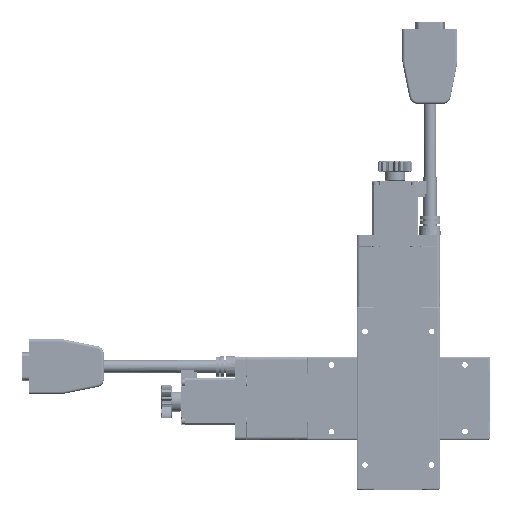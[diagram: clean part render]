
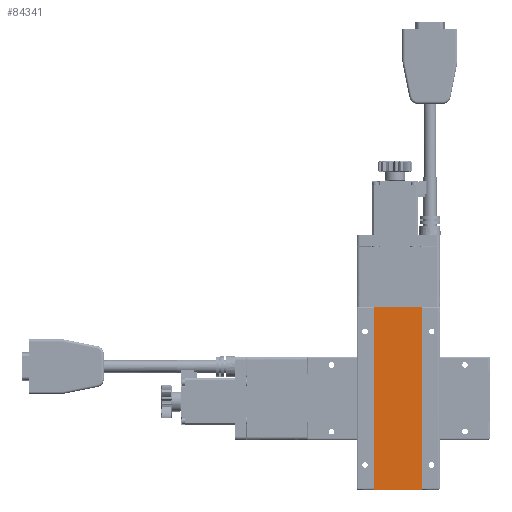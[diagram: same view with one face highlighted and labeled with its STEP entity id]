
A CAD part, front view. The second image highlights one B-rep face of the part: STEP entity #84341.
In plain terms, the highlighted planar face has unit normal (0, -1, 0).
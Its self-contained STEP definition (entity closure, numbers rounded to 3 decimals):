
#758 = EDGE_CURVE ( 'NONE', #85289, #66491, #57590, .T. ) ;
#1230 = CARTESIAN_POINT ( 'NONE',  ( -14.3, -10.95, -18.267 ) ) ;
#6103 = ORIENTED_EDGE ( 'NONE', *, *, #758, .T. ) ;
#12963 = CARTESIAN_POINT ( 'NONE',  ( -14.3, -10.95, 54.8 ) ) ;
#18650 = CARTESIAN_POINT ( 'NONE',  ( 14.3, -10.95, -54.8 ) ) ;
#19559 = EDGE_CURVE ( 'NONE', #66491, #128352, #25336, .T. ) ;
#25336 = B_SPLINE_CURVE_WITH_KNOTS ( 'NONE', 3,
 ( #94058, #64407, #1230, #42439 ),
 .UNSPECIFIED., .F., .F.,
 ( 4, 4 ),
 ( 0., 1. ),
 .UNSPECIFIED. ) ;
#25996 = FACE_OUTER_BOUND ( 'NONE', #41601, .T. ) ;
#26135 = CARTESIAN_POINT ( 'NONE',  ( 14.3, -10.95, 54.8 ) ) ;
#27163 = ORIENTED_EDGE ( 'NONE', *, *, #110834, .T. ) ;
#41601 = EDGE_LOOP ( 'NONE', ( #27163, #120176, #6103, #78436 ) ) ;
#42439 = CARTESIAN_POINT ( 'NONE',  ( -14.3, -10.95, -54.8 ) ) ;
#46348 = EDGE_CURVE ( 'NONE', #74954, #85289, #97276, .T. ) ;
#46796 = CARTESIAN_POINT ( 'NONE',  ( -4.767, -10.95, -54.8 ) ) ;
#54841 = DIRECTION ( 'NONE',  ( 1., 0., 0. ) ) ;
#57590 = B_SPLINE_CURVE_WITH_KNOTS ( 'NONE', 3,
 ( #26135, #67327, #129907, #89353 ),
 .UNSPECIFIED., .F., .F.,
 ( 4, 4 ),
 ( 0., 1. ),
 .UNSPECIFIED. ) ;
#62296 = CARTESIAN_POINT ( 'NONE',  ( -14.3, -10.95, -54.8 ) ) ;
#64407 = CARTESIAN_POINT ( 'NONE',  ( -14.3, -10.95, 18.267 ) ) ;
#66491 = VERTEX_POINT ( 'NONE', #120745 ) ;
#66745 = CARTESIAN_POINT ( 'NONE',  ( 14.3, -10.95, -54.8 ) ) ;
#67327 = CARTESIAN_POINT ( 'NONE',  ( 4.767, -10.95, 54.8 ) ) ;
#67866 = PLANE ( 'NONE',  #126160 ) ;
#74954 = VERTEX_POINT ( 'NONE', #85454 ) ;
#77081 = CARTESIAN_POINT ( 'NONE',  ( 4.767, -10.95, -54.8 ) ) ;
#78436 = ORIENTED_EDGE ( 'NONE', *, *, #19559, .T. ) ;
#80504 = CARTESIAN_POINT ( 'NONE',  ( 14.3, -10.95, -18.267 ) ) ;
#84341 = ADVANCED_FACE ( 'NONE', ( #25996 ), #67866, .F. ) ;
#85289 = VERTEX_POINT ( 'NONE', #89958 ) ;
#85454 = CARTESIAN_POINT ( 'NONE',  ( 14.3, -10.95, -54.8 ) ) ;
#87249 = B_SPLINE_CURVE_WITH_KNOTS ( 'NONE', 3,
 ( #129353, #46796, #77081, #66745 ),
 .UNSPECIFIED., .F., .F.,
 ( 4, 4 ),
 ( 0., 1. ),
 .UNSPECIFIED. ) ;
#89353 = CARTESIAN_POINT ( 'NONE',  ( -14.3, -10.95, 54.8 ) ) ;
#89958 = CARTESIAN_POINT ( 'NONE',  ( 14.3, -10.95, 54.8 ) ) ;
#94058 = CARTESIAN_POINT ( 'NONE',  ( -14.3, -10.95, 54.8 ) ) ;
#97276 = B_SPLINE_CURVE_WITH_KNOTS ( 'NONE', 3,
 ( #18650, #80504, #113482, #102521 ),
 .UNSPECIFIED., .F., .F.,
 ( 4, 4 ),
 ( 0., 1. ),
 .UNSPECIFIED. ) ;
#102521 = CARTESIAN_POINT ( 'NONE',  ( 14.3, -10.95, 54.8 ) ) ;
#109807 = DIRECTION ( 'NONE',  ( 0., 1., 0. ) ) ;
#110834 = EDGE_CURVE ( 'NONE', #128352, #74954, #87249, .T. ) ;
#113482 = CARTESIAN_POINT ( 'NONE',  ( 14.3, -10.95, 18.267 ) ) ;
#120176 = ORIENTED_EDGE ( 'NONE', *, *, #46348, .T. ) ;
#120745 = CARTESIAN_POINT ( 'NONE',  ( -14.3, -10.95, 54.8 ) ) ;
#126160 = AXIS2_PLACEMENT_3D ( 'NONE', #12963, #109807, #54841 ) ;
#128352 = VERTEX_POINT ( 'NONE', #62296 ) ;
#129353 = CARTESIAN_POINT ( 'NONE',  ( -14.3, -10.95, -54.8 ) ) ;
#129907 = CARTESIAN_POINT ( 'NONE',  ( -4.767, -10.95, 54.8 ) ) ;
